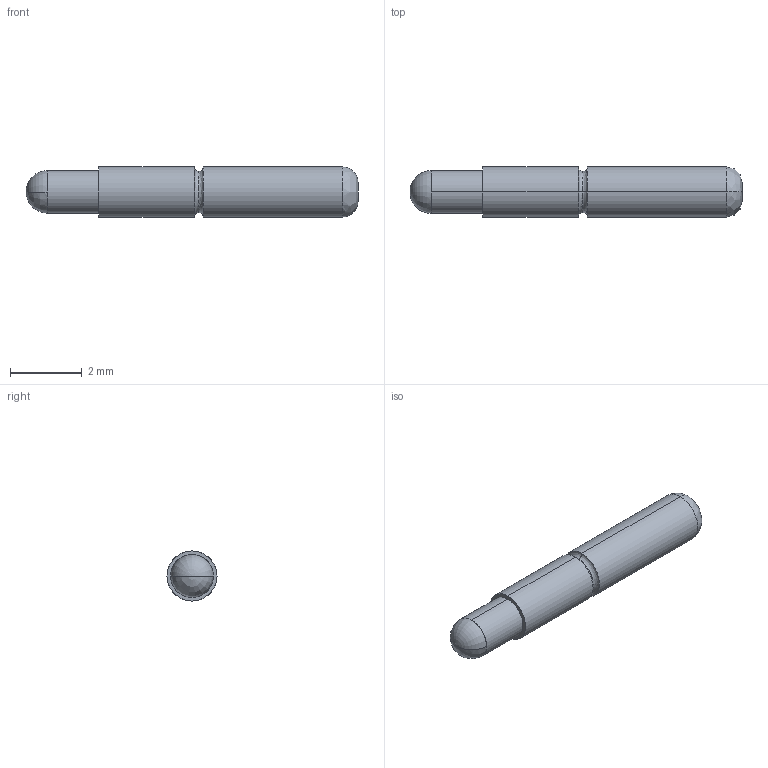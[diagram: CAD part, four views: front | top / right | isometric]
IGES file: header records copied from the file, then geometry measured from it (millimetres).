
Start section: SolidWorks IGES file using analytic representation for surfaces
Global section: file name: Z:\probe solid model mockups\Solidworks models\IGES Files\HPA-64\HPA-64-10.IGS; native system: SolidWorks 2006 by SolidWorks Corporation; preprocessor: SolidWorks 2006 by SolidWorks Corporation; author: tsakatani; date: 071220.100018; units: inch
Bounding box: 9.27 x 1.4 x 1.4 mm (x, y, z)
Surface area: 40.9 mm2 (no closed solid volume)
Topology: 0 solids, 0 shells, 16 faces, 108 edges, 106 vertices
Faces by surface type: bspline 8, revolution 8
